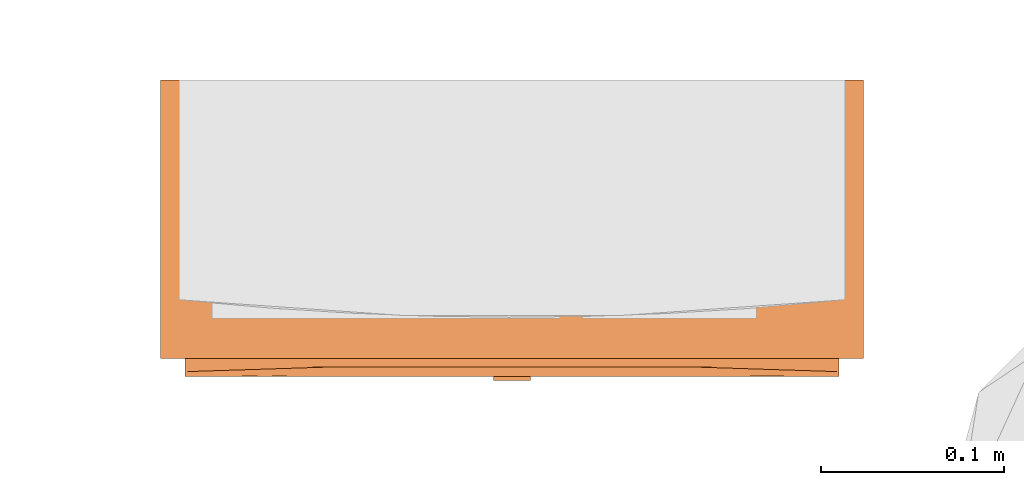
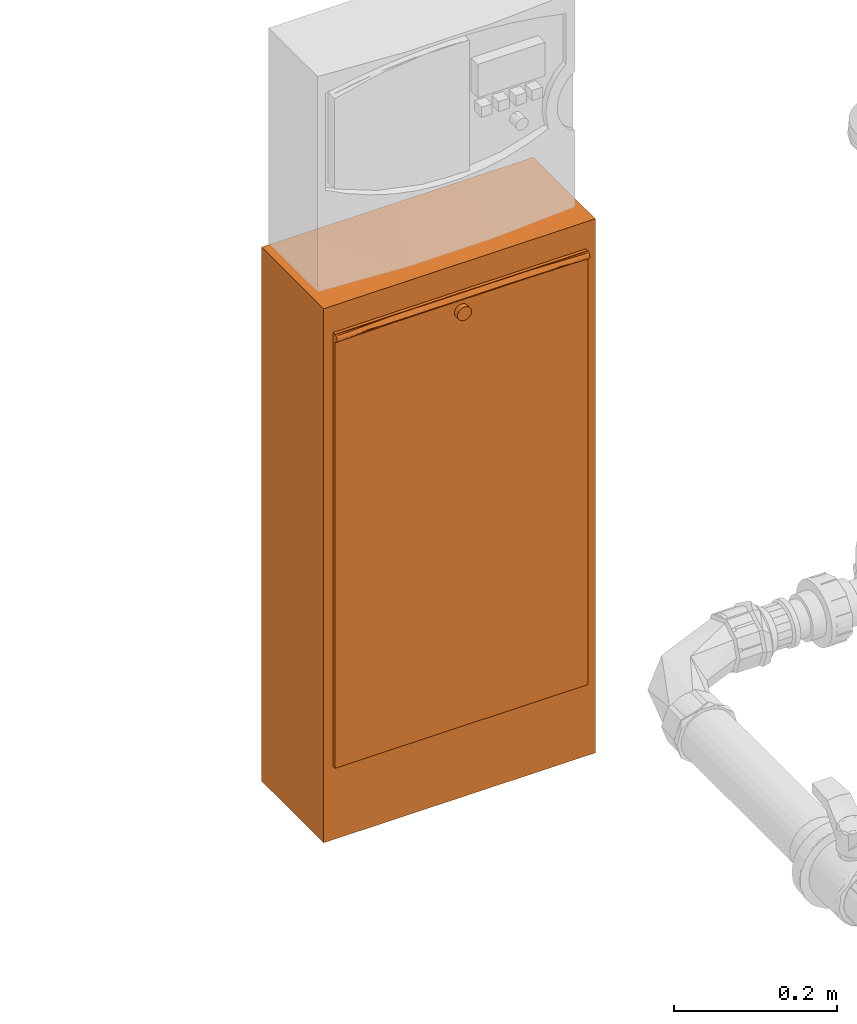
# One storey, part 166 of 166: 1 proxy.
"""IFC2X3 building model written with IfcOpenShell, lengths in metres."""

from ifc_helpers import new_model, entity, si_unit, converted_unit, direction, frame, origin, place, context, subcontext, project, spatial, faceted_brep, source, transform, mapped, material, type_object, type_shapes, element, save


model = new_model("IFC2X3")

# Units and contexts
model_context = context("Model", 3, precision=1e-05, world=origin(), true_north=direction((6.123233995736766e-17, 1.0)))
body_context = subcontext(model_context, "Body", "Model", "MODEL_VIEW")
ifc_project = project(units=[si_unit("LENGTHUNIT", "METRE"), converted_unit("PLANEANGLEUNIT", "DEGREE", entity("IfcPlaneAngleMeasure", 0.017453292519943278), si_unit("PLANEANGLEUNIT", "RADIAN"), dimensions=[0, 0, 0, 0, 0, 0, 0]), si_unit("AREAUNIT", "SQUARE_METRE")], contexts=[model_context])

# Site, building, storey
site_placement = place(None, origin())
site = spatial("IfcSite", under=ifc_project, at=site_placement, Name="Default", CompositionType="ELEMENT")
building_placement = place(site_placement, origin())
building = spatial("IfcBuilding", under=site, at=building_placement, Name="CASA DE ACOLHIDA PARA IDOSOS", CompositionType="ELEMENT")
storey_placement = place(building_placement, frame((0.0, 0.0, -1.7499999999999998)))
storey = spatial("IfcBuildingStorey", under=building, at=storey_placement, Name="IMPLANTAÇÃO DRENAGEM", CompositionType="ELEMENT", Elevation=-1.7499999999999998)

# Proxy
ifc_material = material(Name="<Unnamed>")
building_element_proxy_type = type_object("IfcBuildingElementProxyType", Name="LXMMPED:LXMMPED", PredefinedType="NOTDEFINED", material=ifc_material)
shared_shape = source(origin(), body_context, "Body", "Brep", [
    faceted_brep([(-0.17852723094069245, -0.1566769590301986, 0.7465281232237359), (-0.0025881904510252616, -0.1566769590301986, 0.7405035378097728), (0.0, -0.1566769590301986, 0.7408442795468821), (-0.005000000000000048, -0.1566769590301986, 0.7395045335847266), (-0.007071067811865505, -0.1566769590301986, 0.7379153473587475), (-0.008660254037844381, -0.1566769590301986, 0.7358442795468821), (-0.009659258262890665, -0.1566769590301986, 0.7334324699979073), (-0.00999999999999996, -0.1566769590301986, 0.7308442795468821), (-0.009659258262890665, -0.1566769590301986, 0.728256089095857), (-0.008660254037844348, -0.1566769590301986, 0.7258442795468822), (-0.007071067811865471, -0.1566769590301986, 0.7237732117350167), (-0.005000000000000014, -0.1566769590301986, 0.7221840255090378), (-0.17852723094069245, -0.1566769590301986, 0.10953662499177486), (-0.09739129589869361, -0.15667695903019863, 0.7465281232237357), (-0.0025881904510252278, -0.1566769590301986, 0.7211850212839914), (0.0, -0.1566769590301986, 0.7208442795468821), (0.17852723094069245, -0.1566769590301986, 0.10953662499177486), (0.00258819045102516, -0.1566769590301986, 0.7211850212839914), (0.004999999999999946, -0.1566769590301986, 0.7221840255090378), (0.17852723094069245, -0.1566769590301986, 0.7465281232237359), (0.09739129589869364, -0.15667695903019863, 0.7465281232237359), (0.0025881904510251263, -0.1566769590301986, 0.7405035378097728), (0.004999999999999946, -0.1566769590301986, 0.7395045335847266), (0.007071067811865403, -0.1566769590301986, 0.7379153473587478), (0.008660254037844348, -0.1566769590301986, 0.7358442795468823), (0.009659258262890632, -0.1566769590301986, 0.7334324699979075), (0.00999999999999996, -0.1566769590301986, 0.7308442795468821), (0.009659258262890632, -0.1566769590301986, 0.7282560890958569), (0.007071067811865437, -0.1566769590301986, 0.7237732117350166), (0.008660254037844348, -0.1566769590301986, 0.7258442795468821), (0.04056796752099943, -0.15667695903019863, 0.7465281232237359), (-0.016255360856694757, -0.15667695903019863, 0.7465281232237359), (0.17852723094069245, -0.1566769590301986, 0.7580014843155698), (-0.17852723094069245, -0.1566769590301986, 0.7580014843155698), (-0.17852723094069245, -0.1566769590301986, 0.7573176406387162), (-0.09739129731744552, -0.15667695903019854, 0.7573176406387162), (0.0, -0.1566769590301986, 0.7573176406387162), (0.09739129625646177, -0.1566769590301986, 0.7573176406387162), (0.17852723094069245, -0.1566769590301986, 0.7573176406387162), (0.17852723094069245, -0.152, 0.7580014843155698), (-0.17852723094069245, -0.152, 0.7580014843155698), (-0.17852723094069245, -0.152, 0.10953662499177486), (0.17852723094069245, -0.152, 0.10953662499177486), (-0.17852723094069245, -0.15802960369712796, 0.746759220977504), (-0.17852723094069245, -0.15928030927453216, 0.7473238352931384), (-0.17852723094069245, -0.1603482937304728, 0.7481854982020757), (-0.17852723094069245, -0.1611645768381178, 0.7492885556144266), (-0.17852723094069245, -0.16167643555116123, 0.7505617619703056), (-0.17852723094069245, -0.16185080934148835, 0.751922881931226), (-0.17852723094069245, -0.16167643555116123, 0.7532840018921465), (-0.17852723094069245, -0.16116457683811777, 0.7545572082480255), (-0.17852723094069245, -0.16034829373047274, 0.7556602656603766), (-0.17852723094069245, -0.1592803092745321, 0.7565219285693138), (-0.17852723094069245, -0.15802960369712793, 0.7570865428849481), (0.17852723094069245, -0.15802960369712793, 0.7570865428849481), (0.17852723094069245, -0.1592803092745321, 0.7565219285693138), (0.17852723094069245, -0.16034829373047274, 0.7556602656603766), (0.17852723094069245, -0.16116457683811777, 0.7545572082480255), (0.17852723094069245, -0.16167643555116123, 0.7532840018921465), (0.17852723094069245, -0.16185080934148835, 0.751922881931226), (0.17852723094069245, -0.16167643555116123, 0.7505617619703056), (0.17852723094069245, -0.1611645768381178, 0.7492885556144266), (0.17852723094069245, -0.1603482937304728, 0.7481854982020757), (0.17852723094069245, -0.15928030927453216, 0.7473238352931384), (0.17852723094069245, -0.15802960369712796, 0.746759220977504), (0.0049999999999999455, -0.16423417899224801, 0.7221840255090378), (0.007071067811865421, -0.16423417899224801, 0.7237732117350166), (0.008660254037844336, -0.16423417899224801, 0.7258442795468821), (0.009659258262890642, -0.16423417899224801, 0.7282560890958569), (0.009999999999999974, -0.16423417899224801, 0.7308442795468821), (0.00965925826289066, -0.16423417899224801, 0.7334324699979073), (0.00866025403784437, -0.16423417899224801, 0.7358442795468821), (0.007071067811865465, -0.16423417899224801, 0.7379153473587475), (0.004999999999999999, -0.16423417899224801, 0.7395045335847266), (0.0025881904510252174, -0.16423417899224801, 0.7405035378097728), (0.0, -0.16423417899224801, 0.7408442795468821), (-0.002588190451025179, -0.16423417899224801, 0.7405035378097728), (-0.004999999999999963, -0.16423417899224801, 0.7395045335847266), (-0.007071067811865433, -0.16423417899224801, 0.7379153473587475), (-0.008660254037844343, -0.16423417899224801, 0.7358442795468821), (-0.009659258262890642, -0.16423417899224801, 0.7334324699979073), (-0.009999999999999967, -0.16423417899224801, 0.7308442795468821), (-0.00965925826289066, -0.16423417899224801, 0.728256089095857), (-0.008660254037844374, -0.16423417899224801, 0.7258442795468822), (-0.007071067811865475, -0.16423417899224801, 0.7237732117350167), (-0.005000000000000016, -0.16423417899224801, 0.7221840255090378), (-0.0025881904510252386, -0.16423417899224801, 0.7211850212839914), (0.0, -0.16423417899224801, 0.7208442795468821), (0.002588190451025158, -0.16423417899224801, 0.7211850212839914), (-0.0568233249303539, -0.16185080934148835, 0.7519228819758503), (-0.11767527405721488, -0.1618474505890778, 0.7521133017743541), (0.06897963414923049, -0.16185080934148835, 0.7519228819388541), (0.00363444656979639, -0.16184596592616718, 0.751694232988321), (0.12375343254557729, -0.16180703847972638, 0.751236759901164)], [[[0, 1, 2]], [[1, 0, 3]], [[4, 3, 0]], [[5, 4, 0]], [[6, 5, 0]], [[6, 0, 7]], [[7, 0, 8]], [[8, 0, 9]], [[10, 9, 0]], [[0, 11, 10]], [[0, 12, 11]], [[2, 13, 0]], [[14, 11, 12]], [[12, 15, 14]], [[15, 12, 16]], [[17, 15, 16]], [[16, 18, 17]], [[16, 19, 18]], [[2, 19, 20]], [[21, 19, 2]], [[19, 21, 22]], [[19, 22, 23]], [[23, 24, 19]], [[24, 25, 19]], [[25, 26, 19]], [[19, 26, 27]], [[18, 19, 28]], [[28, 19, 29]], [[29, 19, 27]], [[2, 20, 30]], [[2, 30, 31]], [[2, 31, 13]], [[32, 33, 34, 35, 36, 37, 38]], [[32, 39, 40, 33]], [[12, 41, 42, 16]], [[40, 39, 42, 41]], [[33, 40, 41, 12, 0, 43, 44, 45, 46, 47, 48, 49, 50, 51, 52, 53, 34]], [[38, 54, 55, 56, 57, 58, 59, 60, 61, 62, 63, 64, 19, 16, 42, 39, 32]], [[65, 66, 67, 68, 69, 70, 71, 72, 73, 74, 75, 76, 77, 78, 79, 80, 81, 82, 83, 84, 85, 86, 87, 88]], [[8, 9, 83, 82]], [[7, 8, 82, 81]], [[11, 14, 86, 85]], [[10, 11, 85, 84]], [[9, 10, 84, 83]], [[87, 86, 14, 15]], [[18, 28, 66, 65]], [[17, 18, 65, 88]], [[27, 26, 69, 68]], [[29, 27, 68, 67]], [[28, 29, 67, 66]], [[17, 88, 87, 15]], [[25, 24, 71, 70]], [[26, 25, 70, 69]], [[22, 21, 74, 73]], [[23, 22, 73, 72]], [[24, 23, 72, 71]], [[75, 74, 21, 2]], [[3, 4, 78, 77]], [[1, 3, 77, 76]], [[6, 7, 81, 80]], [[5, 6, 80, 79]], [[4, 5, 79, 78]], [[1, 76, 75, 2]], [[13, 89, 90]], [[90, 50, 49]], [[43, 0, 13]], [[20, 19, 64]], [[91, 92, 30]], [[36, 35, 89]], [[47, 46, 90]], [[91, 20, 93]], [[46, 45, 90]], [[89, 35, 90]], [[53, 35, 34]], [[54, 38, 37]], [[59, 58, 93]], [[54, 37, 55]], [[91, 30, 20]], [[91, 36, 92]], [[91, 37, 36]], [[57, 93, 58]], [[52, 35, 53]], [[36, 89, 92]], [[62, 93, 63]], [[90, 49, 48]], [[44, 43, 13]], [[52, 51, 90]], [[93, 64, 63]], [[90, 48, 47]], [[31, 89, 13]], [[93, 60, 59]], [[93, 62, 61]], [[55, 93, 56]], [[13, 90, 44]], [[93, 55, 37]], [[92, 31, 30]], [[92, 89, 31]], [[64, 93, 20]], [[91, 93, 37]], [[57, 56, 93]], [[52, 90, 35]], [[93, 61, 60]], [[50, 90, 51]], [[44, 90, 45]]]),
    faceted_brep([(0.192, 0.0, 0.7979999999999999), (-0.19199999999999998, 0.0, 0.7979999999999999), (-0.19199999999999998, -0.152, 0.7979999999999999), (0.192, -0.152, 0.7979999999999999), (0.192, 0.0, 0.0), (0.192, -0.152, 0.0), (-0.19199999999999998, -0.152, 0.0), (-0.192, 0.0, 0.0)], [[[0, 1, 2, 3]], [[4, 5, 6, 7]], [[1, 0, 4, 7]], [[2, 1, 7, 6]], [[3, 2, 6, 5]], [[0, 3, 5, 4]]]),
])
type_shapes(building_element_proxy_type, [shared_shape])
proxy_placement = place(storey_placement, frame((-61.40306622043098, 7.180621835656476, 0.05)))
element("IfcBuildingElementProxy", 1, at=proxy_placement, inside=storey, type_object=building_element_proxy_type, material=ifc_material, Name="LXMMPED:LXMMPED", ObjectType="LXMMPED:LXMMPED", context=body_context, shape_type="MappedRepresentation", body=[
    mapped(shared_shape, transform((0.0, 0.0, 0.0), scale=1.0)),
])

save(model, "model.ifc")
